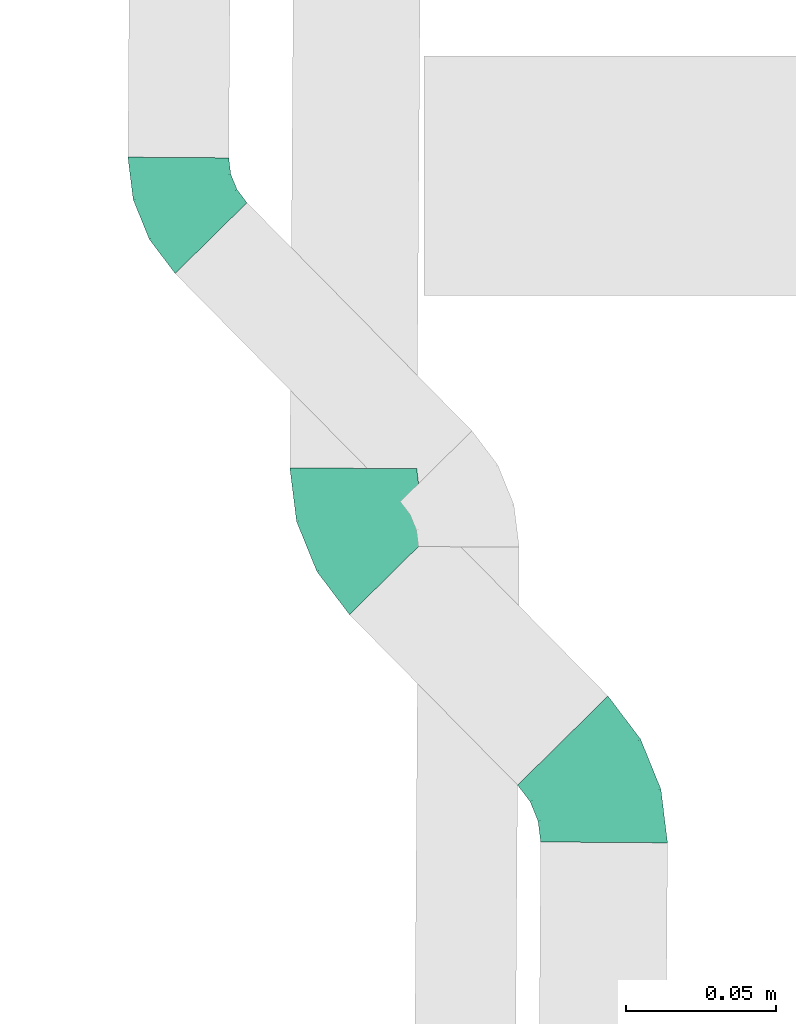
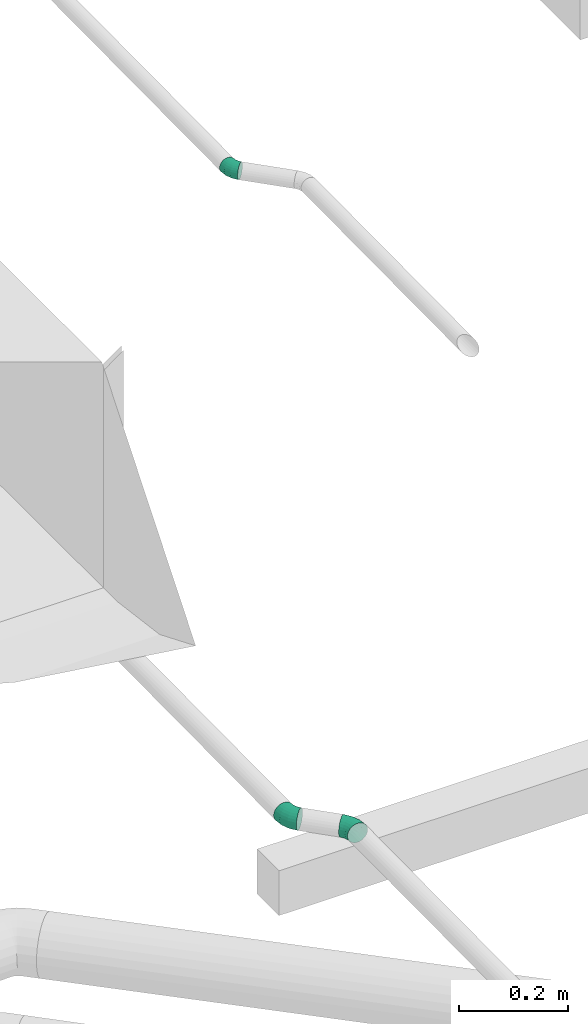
# One storey, part 352 of 374: 3 flow segments.
"""IFC2X3 building model written with IfcOpenShell, lengths in metres."""

from ifc_helpers import new_model, si_unit, direction, origin, place, context, subcontext, project, spatial, open_shell, surface_model, source, transform, mapped, element, save


model = new_model("IFC2X3")

# Units and contexts
model_context = context("Model", 3, precision=1e-05, world=origin(), true_north=direction((-0.4480736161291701, 0.8939966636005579)))
body_context = subcontext(model_context, "Body", "Model", "MODEL_VIEW")
ifc_project = project(units=[si_unit("LENGTHUNIT", "METRE"), si_unit("AREAUNIT", "SQUARE_METRE"), si_unit("VOLUMEUNIT", "CUBIC_METRE"), si_unit("PLANEANGLEUNIT", "RADIAN"), si_unit("THERMODYNAMICTEMPERATUREUNIT", "KELVIN"), si_unit("MASSUNIT", "GRAM", prefix="KILO"), si_unit("TIMEUNIT", "SECOND")], contexts=[model_context])

# Site, building, storey
site_placement = place(None, origin())
site = spatial("IfcSite", under=ifc_project, at=site_placement, Name="Site 1", CompositionType="ELEMENT")
building_placement = place(site_placement, origin())
building = spatial("IfcBuilding", under=site, at=building_placement, Name="Undefined", CompositionType="ELEMENT")
storey_placement = place(building_placement, origin())
storey = spatial("IfcBuildingStorey", under=building, at=storey_placement, Name="Rez de chauss\x8ee", CompositionType="ELEMENT", Elevation=0.0)

# Flow segments
shared_shape_1 = source(origin(), body_context, "Body", "SurfaceModel", [
    surface_model("IfcFaceBasedSurfaceModel", [(0.01806482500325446, 7.105427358e-15, 0.0), (0.017970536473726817, 0.005533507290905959, 0.0), (9.428852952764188e-05, 0.005533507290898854, 0.0), (0.0, 0.0, 0.0), (-0.017172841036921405, 0.00613233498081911, -0.004587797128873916), (-0.01744928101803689, 0.0006051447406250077, -0.004636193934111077), (-0.03265412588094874, 0.007289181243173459, -0.013450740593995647), (-0.0330938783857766, 0.0017741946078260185, -0.013592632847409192), (0.01769409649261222, 0.010875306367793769, -0.0014203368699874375), (0.00037072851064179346, 0.010875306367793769, -0.0014203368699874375), (-0.016362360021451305, 0.011455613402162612, -0.005866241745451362), (-0.03136483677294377, 0.012576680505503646, -0.014455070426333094), (0.017254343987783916, 0.015661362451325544, -0.0041642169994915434), (0.0008104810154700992, 0.015661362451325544, -0.004164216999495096), (-0.01507307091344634, 0.016212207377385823, -0.008384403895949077), (-0.029313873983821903, 0.01727635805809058, -0.016537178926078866), (0.016681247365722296, 0.01956551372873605, -0.008044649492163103), (0.001383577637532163, 0.01956551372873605, -0.008044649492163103), (-0.01339283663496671, 0.020077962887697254, -0.011970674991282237), (-0.026641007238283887, 0.021067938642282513, -0.01955517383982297), (0.016013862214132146, 0.022321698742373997, -0.012797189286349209), (0.0020509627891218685, 0.022321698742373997, -0.012797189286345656), (-0.011436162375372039, 0.02278943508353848, -0.016380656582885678), (-0.023528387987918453, 0.02369303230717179, -0.023303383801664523), (0.015297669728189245, 0.023742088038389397, -0.018097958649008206), (0.00276715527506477, 0.023742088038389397, -0.018097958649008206), (-0.009336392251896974, 0.024161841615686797, -0.021313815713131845), (-0.02018813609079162, 0.02497274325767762, -0.0275263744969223), (0.014581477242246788, 0.023729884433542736, -0.02358571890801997), (0.0034833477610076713, 0.023729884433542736, -0.02358571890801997), (-0.007236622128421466, 0.024101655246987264, -0.026433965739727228), (-0.016847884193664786, 0.02481986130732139, -0.03193635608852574), (0.013914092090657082, 0.02228591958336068, -0.02888648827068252), (0.004150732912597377, 0.022285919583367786, -0.028886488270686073), (-0.005279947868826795, 0.022612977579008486, -0.031392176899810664), (-0.013735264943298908, 0.023244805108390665, -0.03623279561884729), (0.013340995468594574, 0.01950859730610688, -0.03363902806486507), (0.0047238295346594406, 0.01950859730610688, -0.033639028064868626), (-0.0035997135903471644, 0.019797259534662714, -0.035850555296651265), (-0.011062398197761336, 0.0203549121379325, -0.04012289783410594), (0.012901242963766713, 0.015587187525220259, -0.037519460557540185), (0.005163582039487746, 0.015587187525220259, -0.03751946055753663), (-0.0023104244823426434, 0.015846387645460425, -0.03950526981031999), (-0.009011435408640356, 0.016347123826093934, -0.043341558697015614), (0.012624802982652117, 0.010788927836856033, -0.040263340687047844), (0.005440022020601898, 0.010788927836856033, -0.0402633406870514), (-0.0014999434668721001, 0.011029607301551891, -0.04210725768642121), (-0.007722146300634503, 0.01149456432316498, -0.045669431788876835), (0.012530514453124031, 0.005440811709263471, -0.041683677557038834), (0.005534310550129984, 0.0054408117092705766, -0.041683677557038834), (-0.0012235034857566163, 0.005675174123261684, -0.04347919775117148), (-0.007282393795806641, 0.006127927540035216, -0.046947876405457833), (0.012624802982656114, -9.269558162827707e-05, -0.04168367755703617), (0.005440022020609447, -9.269558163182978e-05, -0.04168367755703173), (-0.0014999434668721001, 0.00014798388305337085, -0.0435275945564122), (-0.001499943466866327, 0.00014798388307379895, -0.04352759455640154), (-0.007722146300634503, 0.0006129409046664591, -0.047089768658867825), (0.012901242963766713, -0.005434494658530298, -0.0402633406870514), (0.005163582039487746, -0.005434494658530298, -0.040263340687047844), (-0.0023104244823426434, -0.005175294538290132, -0.0422491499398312), (-0.009011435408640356, -0.004674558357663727, -0.046085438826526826), (0.013340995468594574, -0.010220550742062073, -0.03751946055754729), (0.0047238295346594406, -0.010220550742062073, -0.03751946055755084), (-0.0035997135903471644, -0.009931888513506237, -0.03973098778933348), (-0.011062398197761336, -0.009374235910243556, -0.04400333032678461), (0.013914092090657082, -0.01412470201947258, -0.03363902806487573), (0.004150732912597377, -0.014124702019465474, -0.033639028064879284), (-0.005279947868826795, -0.013797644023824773, -0.036144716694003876), (-0.013735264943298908, -0.013165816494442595, -0.0409853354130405), (0.014581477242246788, -0.01688088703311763, -0.028886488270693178), (0.0034833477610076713, -0.01688088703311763, -0.028886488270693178), (-0.007236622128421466, -0.016509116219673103, -0.031734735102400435), (-0.016847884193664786, -0.015790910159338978, -0.03723712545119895), (0.015297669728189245, -0.01830127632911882, -0.02358571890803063), (0.00276715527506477, -0.01830127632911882, -0.02358571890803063), (-0.009336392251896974, -0.01788152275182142, -0.026801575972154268), (-0.02018813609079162, -0.017070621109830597, -0.033014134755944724), (0.016013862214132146, -0.01828907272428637, -0.018097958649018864), (0.0020509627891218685, -0.01828907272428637, -0.018097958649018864), (-0.011436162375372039, -0.01782133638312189, -0.021681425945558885), (-0.023528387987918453, -0.016917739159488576, -0.02860415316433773), (0.016681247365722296, -0.01684510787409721, -0.012797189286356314), (0.001383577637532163, -0.01684510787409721, -0.012797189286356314), (-0.01339283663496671, -0.016332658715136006, -0.01672321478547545), (-0.026641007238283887, -0.015342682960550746, -0.02430771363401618), (0.017254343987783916, -0.014067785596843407, -0.008044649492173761), (0.0008104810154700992, -0.014067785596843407, -0.008044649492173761), (-0.01507307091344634, -0.013516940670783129, -0.012264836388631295), (-0.029313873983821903, -0.012452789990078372, -0.020417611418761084), (0.01769409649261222, -0.010146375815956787, -0.004164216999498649), (0.00037072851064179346, -0.010146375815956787, -0.004164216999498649), (-0.016362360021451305, -0.009566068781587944, -0.008610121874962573), (-0.03136483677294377, -0.008445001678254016, -0.017198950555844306), (0.017970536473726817, -0.0053481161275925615, -0.0014203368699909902), (9.428852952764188e-05, -0.005348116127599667, -0.001420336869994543), (-0.017172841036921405, -0.004749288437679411, -0.006008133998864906), (-0.03265412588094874, -0.0035924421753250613, -0.014871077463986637)], [open_shell([[[0, 1, 2, 3]], [[3, 2, 4, 5]], [[5, 4, 6, 7]], [[1, 8, 9, 2]], [[2, 9, 10, 4]], [[4, 10, 11, 6]], [[8, 12, 13, 9]], [[9, 13, 14, 10]], [[10, 14, 15, 11]], [[12, 16, 17, 13]], [[13, 17, 18, 14]], [[14, 18, 19, 15]], [[16, 20, 21, 17]], [[17, 21, 22, 18]], [[18, 22, 23, 19]], [[20, 24, 25, 21]], [[21, 25, 26, 22]], [[22, 26, 27, 23]], [[24, 28, 29, 25]], [[25, 29, 30, 26]], [[26, 30, 31, 27]], [[28, 32, 33, 29]], [[29, 33, 34, 30]], [[30, 34, 35, 31]], [[32, 36, 37, 33]], [[33, 37, 38, 34]], [[34, 38, 39, 35]], [[36, 40, 41, 37]], [[37, 41, 42, 38]], [[38, 42, 43, 39]], [[40, 44, 45, 41]], [[41, 45, 46, 42]], [[42, 46, 47, 43]], [[44, 48, 49, 45]], [[45, 49, 50, 46]], [[46, 50, 51, 47]], [[48, 52, 53, 49]], [[49, 53, 54, 50]], [[50, 55, 56, 51]], [[52, 57, 58, 53]], [[53, 58, 59, 54]], [[55, 59, 60, 56]], [[57, 61, 62, 58]], [[58, 62, 63, 59]], [[59, 63, 64, 60]], [[61, 65, 66, 62]], [[62, 66, 67, 63]], [[63, 67, 68, 64]], [[65, 69, 70, 66]], [[66, 70, 71, 67]], [[67, 71, 72, 68]], [[69, 73, 74, 70]], [[70, 74, 75, 71]], [[71, 75, 76, 72]], [[73, 77, 78, 74]], [[74, 78, 79, 75]], [[75, 79, 80, 76]], [[77, 81, 82, 78]], [[78, 82, 83, 79]], [[79, 83, 84, 80]], [[81, 85, 86, 82]], [[82, 86, 87, 83]], [[83, 87, 88, 84]], [[85, 89, 90, 86]], [[86, 90, 91, 87]], [[87, 91, 92, 88]], [[89, 93, 94, 90]], [[90, 94, 95, 91]], [[91, 95, 96, 92]], [[93, 0, 3, 94]], [[94, 3, 5, 95]], [[95, 5, 7, 96]]])]),
])
flow_segment_1_placement = place(storey_placement, origin())
element("IfcFlowSegment", 1, at=flow_segment_1_placement, inside=storey, Name="Tube coudé", ObjectType="Tube coudé", context=body_context, shape_type="MappedRepresentation", body=[
    mapped(shared_shape_1, transform((52.869882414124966, 12.596988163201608, 2.6735279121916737), x_axis=(-0.12360147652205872, 0.9923319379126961, 0.0), y_axis=(0.12843584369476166, 0.015997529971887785, -0.9915887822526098), z_axis=(-0.9839852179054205, -0.12256183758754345, -0.12942830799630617))),
])
shared_shape_2 = source(origin(), body_context, "Body", "SurfaceModel", [
    surface_model("IfcFaceBasedSurfaceModel", [(0.01806482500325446, 7.105427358e-15, 0.0), (0.017970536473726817, 0.005533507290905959, 0.0), (9.428852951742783e-05, 0.005533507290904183, 1.776356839e-15), (0.0, 0.0, 0.0), (-0.017172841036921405, 0.00613233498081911, -0.004587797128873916), (-0.01744928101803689, 0.0006051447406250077, -0.004636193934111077), (-0.03265412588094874, 0.007289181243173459, -0.013450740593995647), (-0.0330938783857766, 0.0017741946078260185, -0.013592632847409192), (0.01769409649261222, 0.010875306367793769, -0.0014203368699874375), (0.00037072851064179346, 0.010875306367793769, -0.0014203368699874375), (-0.016362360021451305, 0.011455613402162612, -0.005866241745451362), (-0.03136483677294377, 0.012576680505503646, -0.014455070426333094), (0.017254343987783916, 0.015661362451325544, -0.0041642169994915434), (0.0008104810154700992, 0.015661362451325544, -0.004164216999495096), (-0.01507307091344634, 0.016212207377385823, -0.008384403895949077), (-0.029313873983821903, 0.01727635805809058, -0.016537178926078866), (0.016681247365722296, 0.01956551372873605, -0.008044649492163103), (0.001383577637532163, 0.01956551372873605, -0.008044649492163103), (-0.01339283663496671, 0.020077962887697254, -0.011970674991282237), (-0.026641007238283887, 0.021067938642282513, -0.01955517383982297), (0.016013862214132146, 0.022321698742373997, -0.012797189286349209), (0.0020509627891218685, 0.022321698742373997, -0.012797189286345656), (-0.011436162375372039, 0.02278943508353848, -0.016380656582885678), (-0.023528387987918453, 0.02369303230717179, -0.023303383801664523), (0.015297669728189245, 0.023742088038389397, -0.018097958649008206), (0.00276715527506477, 0.023742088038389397, -0.018097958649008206), (-0.009336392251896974, 0.024161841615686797, -0.021313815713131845), (-0.02018813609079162, 0.02497274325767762, -0.0275263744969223), (0.014581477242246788, 0.023729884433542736, -0.02358571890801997), (0.0034833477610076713, 0.023729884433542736, -0.02358571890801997), (-0.007236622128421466, 0.024101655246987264, -0.026433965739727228), (-0.016847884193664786, 0.02481986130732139, -0.03193635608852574), (0.013914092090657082, 0.02228591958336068, -0.02888648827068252), (0.004150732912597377, 0.022285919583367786, -0.028886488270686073), (-0.005279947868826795, 0.022612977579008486, -0.031392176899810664), (-0.013735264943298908, 0.023244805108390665, -0.03623279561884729), (0.013340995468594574, 0.01950859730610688, -0.03363902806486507), (0.0047238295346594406, 0.01950859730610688, -0.033639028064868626), (-0.0035997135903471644, 0.019797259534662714, -0.035850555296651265), (-0.011062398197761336, 0.0203549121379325, -0.04012289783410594), (0.012901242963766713, 0.015587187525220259, -0.037519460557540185), (0.005163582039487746, 0.015587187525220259, -0.03751946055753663), (-0.0023104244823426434, 0.015846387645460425, -0.03950526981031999), (-0.009011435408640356, 0.016347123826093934, -0.043341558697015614), (0.012624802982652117, 0.010788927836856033, -0.040263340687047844), (0.005440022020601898, 0.010788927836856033, -0.0402633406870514), (-0.0014999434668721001, 0.011029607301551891, -0.04210725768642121), (-0.007722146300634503, 0.01149456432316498, -0.045669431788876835), (0.012530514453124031, 0.005440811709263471, -0.041683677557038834), (0.005534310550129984, 0.0054408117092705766, -0.041683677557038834), (-0.0012235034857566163, 0.005675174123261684, -0.04347919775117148), (-0.007282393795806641, 0.006127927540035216, -0.046947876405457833), (0.012624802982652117, -9.269558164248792e-05, -0.04168367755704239), (0.005440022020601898, -9.269558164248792e-05, -0.04168367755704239), (-0.0014999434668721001, 0.00014798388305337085, -0.0435275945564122), (-0.007722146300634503, 0.0006129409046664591, -0.047089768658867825), (0.012901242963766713, -0.005434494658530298, -0.0402633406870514), (0.005163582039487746, -0.005434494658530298, -0.040263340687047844), (-0.0023104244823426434, -0.005175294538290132, -0.0422491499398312), (-0.009011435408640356, -0.004674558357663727, -0.046085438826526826), (0.013340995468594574, -0.010220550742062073, -0.03751946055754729), (0.0047238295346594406, -0.010220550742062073, -0.03751946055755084), (-0.0035997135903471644, -0.009931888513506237, -0.03973098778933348), (-0.011062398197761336, -0.009374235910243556, -0.04400333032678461), (0.013914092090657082, -0.01412470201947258, -0.03363902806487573), (0.004150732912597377, -0.014124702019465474, -0.033639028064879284), (-0.005279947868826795, -0.013797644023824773, -0.036144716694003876), (-0.013735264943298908, -0.013165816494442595, -0.0409853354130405), (0.014581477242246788, -0.01688088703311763, -0.028886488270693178), (0.0034833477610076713, -0.01688088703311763, -0.028886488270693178), (-0.007236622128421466, -0.016509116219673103, -0.031734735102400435), (-0.016847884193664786, -0.015790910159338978, -0.03723712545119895), (0.015297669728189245, -0.01830127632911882, -0.02358571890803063), (0.00276715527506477, -0.01830127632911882, -0.02358571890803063), (-0.009336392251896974, -0.01788152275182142, -0.026801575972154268), (-0.02018813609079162, -0.017070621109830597, -0.033014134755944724), (0.016013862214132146, -0.01828907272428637, -0.018097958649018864), (0.0020509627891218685, -0.01828907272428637, -0.018097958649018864), (-0.011436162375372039, -0.01782133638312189, -0.021681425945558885), (-0.023528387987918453, -0.016917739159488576, -0.02860415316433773), (0.016681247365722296, -0.01684510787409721, -0.012797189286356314), (0.001383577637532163, -0.01684510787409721, -0.012797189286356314), (-0.01339283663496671, -0.016332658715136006, -0.01672321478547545), (-0.026641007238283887, -0.015342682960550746, -0.02430771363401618), (0.017254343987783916, -0.014067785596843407, -0.008044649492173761), (0.0008104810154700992, -0.014067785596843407, -0.008044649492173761), (-0.01507307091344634, -0.013516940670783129, -0.012264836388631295), (-0.029313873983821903, -0.012452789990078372, -0.020417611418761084), (0.01769409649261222, -0.010146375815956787, -0.004164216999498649), (0.00037072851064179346, -0.010146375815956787, -0.004164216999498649), (-0.016362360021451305, -0.009566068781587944, -0.008610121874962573), (-0.03136483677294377, -0.008445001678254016, -0.017198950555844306), (0.017970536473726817, -0.0053481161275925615, -0.0014203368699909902), (9.428852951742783e-05, -0.0053481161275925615, -0.0014203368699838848), (-0.017172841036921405, -0.004749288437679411, -0.006008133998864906), (-0.03265412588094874, -0.0035924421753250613, -0.014871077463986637)], [open_shell([[[0, 1, 2, 3]], [[3, 2, 4, 5]], [[5, 4, 6, 7]], [[1, 8, 9, 2]], [[2, 9, 10, 4]], [[4, 10, 11, 6]], [[8, 12, 13, 9]], [[9, 13, 14, 10]], [[10, 14, 15, 11]], [[12, 16, 17, 13]], [[13, 17, 18, 14]], [[14, 18, 19, 15]], [[16, 20, 21, 17]], [[17, 21, 22, 18]], [[18, 22, 23, 19]], [[20, 24, 25, 21]], [[21, 25, 26, 22]], [[22, 26, 27, 23]], [[24, 28, 29, 25]], [[25, 29, 30, 26]], [[26, 30, 31, 27]], [[28, 32, 33, 29]], [[29, 33, 34, 30]], [[30, 34, 35, 31]], [[32, 36, 37, 33]], [[33, 37, 38, 34]], [[34, 38, 39, 35]], [[36, 40, 41, 37]], [[37, 41, 42, 38]], [[38, 42, 43, 39]], [[40, 44, 45, 41]], [[41, 45, 46, 42]], [[42, 46, 47, 43]], [[44, 48, 49, 45]], [[45, 49, 50, 46]], [[46, 50, 51, 47]], [[48, 52, 53, 49]], [[49, 53, 54, 50]], [[50, 54, 55, 51]], [[52, 56, 57, 53]], [[53, 57, 58, 54]], [[54, 58, 59, 55]], [[56, 60, 61, 57]], [[57, 61, 62, 58]], [[58, 62, 63, 59]], [[60, 64, 65, 61]], [[61, 65, 66, 62]], [[62, 66, 67, 63]], [[64, 68, 69, 65]], [[65, 69, 70, 66]], [[66, 70, 71, 67]], [[68, 72, 73, 69]], [[69, 73, 74, 70]], [[70, 74, 75, 71]], [[72, 76, 77, 73]], [[73, 77, 78, 74]], [[74, 78, 79, 75]], [[76, 80, 81, 77]], [[77, 81, 82, 78]], [[78, 82, 83, 79]], [[80, 84, 85, 81]], [[81, 85, 86, 82]], [[82, 86, 87, 83]], [[84, 88, 89, 85]], [[85, 89, 90, 86]], [[86, 90, 91, 87]], [[88, 92, 93, 89]], [[89, 93, 94, 90]], [[90, 94, 95, 91]], [[92, 0, 3, 93]], [[93, 3, 5, 94]], [[94, 5, 7, 95]]])]),
])
flow_segment_2_placement = place(storey_placement, origin())
element("IfcFlowSegment", 2, at=flow_segment_2_placement, inside=storey, Name="Tube coudé", ObjectType="Tube coudé", context=body_context, shape_type="MappedRepresentation", body=[
    mapped(shared_shape_2, transform((52.984844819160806, 12.524233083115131, 2.6735279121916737), x_axis=(-0.6032079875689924, 0.7975839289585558, 0.0), y_axis=(-0.10322993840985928, -0.07807218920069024, 0.9915887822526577), z_axis=(0.7908752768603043, 0.5981342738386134, 0.12942830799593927))),
])
shared_shape_3 = source(origin(), body_context, "Body", "SurfaceModel", [
    surface_model("IfcFaceBasedSurfaceModel", [(0.014318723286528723, 0.0, 8.8817842e-16), (0.01424378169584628, 0.004398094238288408, 0.0), (7.494159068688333e-05, 0.004398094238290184, 0.0), (0.0, 0.0, 0.0), (-0.013611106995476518, 0.004872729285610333, -0.0036363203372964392), (-0.01383082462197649, 0.000479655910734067, -0.003674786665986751), (-0.02588168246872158, 0.005789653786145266, -0.010661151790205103), (-0.026231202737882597, 0.0014062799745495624, -0.010773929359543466), (0.01402406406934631, 0.008643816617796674, -0.00112889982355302), (0.0002946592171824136, 0.00864381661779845, -0.001128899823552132), (-0.01296692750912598, 0.009103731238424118, -0.00465244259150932), (-0.02485694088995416, 0.009992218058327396, -0.011459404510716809), (0.013674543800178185, 0.012447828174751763, -0.0033097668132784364), (0.0006441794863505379, 0.012447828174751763, -0.003309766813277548), (-0.011942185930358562, 0.012884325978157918, -0.006653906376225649), (-0.023226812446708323, 0.013727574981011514, -0.01311428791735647), (0.013219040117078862, 0.01555089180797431, -0.006393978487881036), (0.0010996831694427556, 0.015550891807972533, -0.006393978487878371), (-0.010606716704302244, 0.015956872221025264, -0.009504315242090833), (-0.021102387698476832, 0.016741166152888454, -0.01551302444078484), (0.012688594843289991, 0.01774153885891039, -0.010171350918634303), (0.0016301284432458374, 0.01774153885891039, -0.010171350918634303), (-0.009051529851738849, 0.018111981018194, -0.013009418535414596), (-0.01862844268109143, 0.01882762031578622, -0.018492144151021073), (0.012119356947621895, 0.018870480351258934, -0.014384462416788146), (0.0021993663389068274, 0.018870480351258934, -0.014384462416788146), (-0.007382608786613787, 0.019202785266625, -0.016930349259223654), (-0.015973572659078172, 0.019844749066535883, -0.021848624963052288), (0.0115501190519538, 0.018860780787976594, -0.01874619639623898), (0.002768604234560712, 0.018860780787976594, -0.01874619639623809), (-0.005713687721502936, 0.019154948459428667, -0.020999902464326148), (-0.013318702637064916, 0.01972323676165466, -0.025353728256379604), (0.011019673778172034, 0.01771310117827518, -0.022959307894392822), (0.0032990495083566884, 0.01771310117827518, -0.022959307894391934), (-0.004158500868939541, 0.017971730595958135, -0.0249407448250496), (-0.010844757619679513, 0.018471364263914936, -0.028768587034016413), (0.010564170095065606, 0.015505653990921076, -0.02673668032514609), (0.0037545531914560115, 0.015505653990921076, -0.0267366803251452), (-0.002823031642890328, 0.01573376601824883, -0.028484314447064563), (-0.008720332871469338, 0.016174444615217, -0.03186048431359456), (0.010214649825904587, 0.012388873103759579, -0.029820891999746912), (0.004104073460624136, 0.012388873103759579, -0.029820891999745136), (-0.0017982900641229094, 0.012593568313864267, -0.03138912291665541), (-0.007090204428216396, 0.012989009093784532, -0.03441871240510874), (0.009994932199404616, 0.008575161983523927, -0.03200175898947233), (0.004323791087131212, 0.00857516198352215, -0.03200175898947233), (-0.001154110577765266, 0.00876513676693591, -0.03345721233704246), (-0.006065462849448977, 0.009132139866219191, -0.03626893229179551), (0.009919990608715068, 0.004324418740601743, -0.03313065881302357), (0.004398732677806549, 0.004324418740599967, -0.03313065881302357), (-0.0009343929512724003, 0.004509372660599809, -0.03454764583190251), (-0.005715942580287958, 0.004866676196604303, -0.03728505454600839), (0.00999493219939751, -7.367549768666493e-05, -0.03313065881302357), (0.004323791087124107, -7.367549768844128e-05, -0.03313065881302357), (-0.0011541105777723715, 0.00011629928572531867, -0.03458611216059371), (-0.0011541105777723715, 0.00011629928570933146, -0.03458611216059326), (-0.0060654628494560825, 0.00048330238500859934, -0.03739783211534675), (0.010214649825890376, -0.004319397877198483, -0.03200175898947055), (0.00410407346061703, -0.0043193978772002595, -0.03200175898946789), (-0.0017982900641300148, -0.004114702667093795, -0.03356998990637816), (-0.007090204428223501, -0.0037192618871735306, -0.036599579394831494), (0.0105641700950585, -0.008123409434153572, -0.029820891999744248), (0.003754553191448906, -0.008123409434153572, -0.02982089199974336), (-0.0028230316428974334, -0.007895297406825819, -0.03156852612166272), (-0.008720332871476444, -0.007454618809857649, -0.03494469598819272), (0.011019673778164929, -0.011226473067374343, -0.026736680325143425), (0.003299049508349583, -0.011226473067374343, -0.026736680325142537), (-0.004158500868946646, -0.010967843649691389, -0.028718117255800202), (-0.010844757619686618, -0.010468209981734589, -0.032545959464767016), (0.011550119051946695, -0.013417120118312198, -0.02295930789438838), (0.0027686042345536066, -0.013417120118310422, -0.022959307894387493), (-0.005713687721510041, -0.013122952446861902, -0.02521301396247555), (-0.013318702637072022, -0.012554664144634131, -0.029566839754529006), (0.01211935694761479, -0.014546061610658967, -0.018746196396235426), (0.002199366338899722, -0.014546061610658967, -0.018746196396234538), (-0.007382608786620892, -0.0142137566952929, -0.021292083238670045), (-0.015973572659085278, -0.013571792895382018, -0.02621035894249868), (0.012688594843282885, -0.014536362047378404, -0.014384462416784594), (0.001630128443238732, -0.014536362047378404, -0.014384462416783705), (-0.009051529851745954, -0.014165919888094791, -0.017222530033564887), (-0.018628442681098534, -0.013450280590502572, -0.022705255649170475), (0.013219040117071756, -0.013388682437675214, -0.010171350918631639), (0.0010996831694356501, -0.01338868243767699, -0.010171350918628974), (-0.010606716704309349, -0.01298270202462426, -0.013281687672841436), (-0.021102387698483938, -0.01219840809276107, -0.019290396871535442), (0.01367454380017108, -0.011181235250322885, -0.006393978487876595), (0.0006441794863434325, -0.011181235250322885, -0.006393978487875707), (-0.011942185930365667, -0.01074473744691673, -0.009738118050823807), (-0.023226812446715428, -0.009901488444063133, -0.01619849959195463), (0.014024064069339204, -0.008064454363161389, -0.003309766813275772), (0.0002946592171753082, -0.008064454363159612, -0.0033097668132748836), (-0.012966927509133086, -0.0076045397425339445, -0.006833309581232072), (-0.024856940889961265, -0.0067160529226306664, -0.01364027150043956), (0.014243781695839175, -0.004250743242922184, -0.0011288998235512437), (7.494159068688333e-05, -0.004250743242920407, -0.0011288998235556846), (-0.013611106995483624, -0.0037761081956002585, -0.004765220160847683), (-0.025881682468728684, -0.002859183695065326, -0.011790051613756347)], [open_shell([[[0, 1, 2, 3]], [[3, 2, 4, 5]], [[5, 4, 6, 7]], [[1, 8, 9, 2]], [[2, 9, 10, 4]], [[4, 10, 11, 6]], [[8, 12, 13, 9]], [[9, 13, 14, 10]], [[10, 14, 15, 11]], [[12, 16, 17, 13]], [[13, 17, 18, 14]], [[14, 18, 19, 15]], [[16, 20, 21, 17]], [[17, 21, 22, 18]], [[18, 22, 23, 19]], [[20, 24, 25, 21]], [[21, 25, 26, 22]], [[22, 26, 27, 23]], [[24, 28, 29, 25]], [[25, 29, 30, 26]], [[26, 30, 31, 27]], [[28, 32, 33, 29]], [[29, 33, 34, 30]], [[30, 34, 35, 31]], [[32, 36, 37, 33]], [[33, 37, 38, 34]], [[34, 38, 39, 35]], [[36, 40, 41, 37]], [[37, 41, 42, 38]], [[38, 42, 43, 39]], [[40, 44, 45, 41]], [[41, 45, 46, 42]], [[42, 46, 47, 43]], [[44, 48, 49, 45]], [[45, 49, 50, 46]], [[46, 50, 51, 47]], [[48, 52, 53, 49]], [[49, 53, 54, 50]], [[50, 55, 56, 51]], [[52, 57, 58, 53]], [[53, 58, 59, 54]], [[55, 59, 60, 56]], [[57, 61, 62, 58]], [[58, 62, 63, 59]], [[59, 63, 64, 60]], [[61, 65, 66, 62]], [[62, 66, 67, 63]], [[63, 67, 68, 64]], [[65, 69, 70, 66]], [[66, 70, 71, 67]], [[67, 71, 72, 68]], [[69, 73, 74, 70]], [[70, 74, 75, 71]], [[71, 75, 76, 72]], [[73, 77, 78, 74]], [[74, 78, 79, 75]], [[75, 79, 80, 76]], [[77, 81, 82, 78]], [[78, 82, 83, 79]], [[79, 83, 84, 80]], [[81, 85, 86, 82]], [[82, 86, 87, 83]], [[83, 87, 88, 84]], [[85, 89, 90, 86]], [[86, 90, 91, 87]], [[87, 91, 92, 88]], [[89, 93, 94, 90]], [[90, 94, 95, 91]], [[91, 95, 96, 92]], [[93, 0, 3, 94]], [[94, 3, 5, 95]], [[95, 5, 7, 96]]])]),
])
flow_segment_3_placement = place(storey_placement, origin())
element("IfcFlowSegment", 3, at=flow_segment_3_placement, inside=storey, Name="Tube coudé", ObjectType="Tube coudé", context=body_context, shape_type="MappedRepresentation", body=[
    mapped(shared_shape_3, transform((52.81529291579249, 12.704532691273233, 4.074309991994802), x_axis=(-0.12360147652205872, 0.9923319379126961, 0.0), y_axis=(0.12843584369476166, 0.015997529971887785, -0.9915887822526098), z_axis=(-0.9839852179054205, -0.12256183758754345, -0.12942830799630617))),
])

save(model, "model.ifc")
